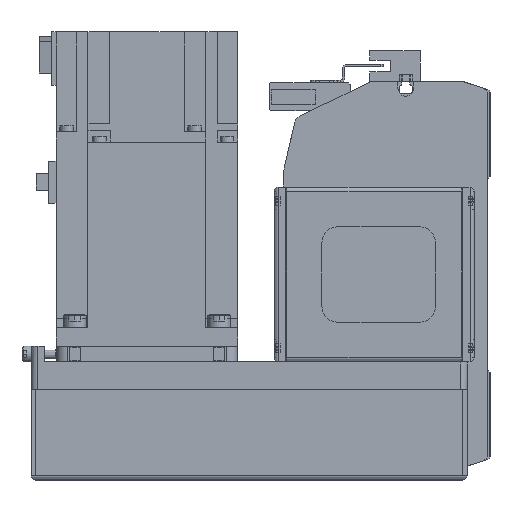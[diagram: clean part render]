
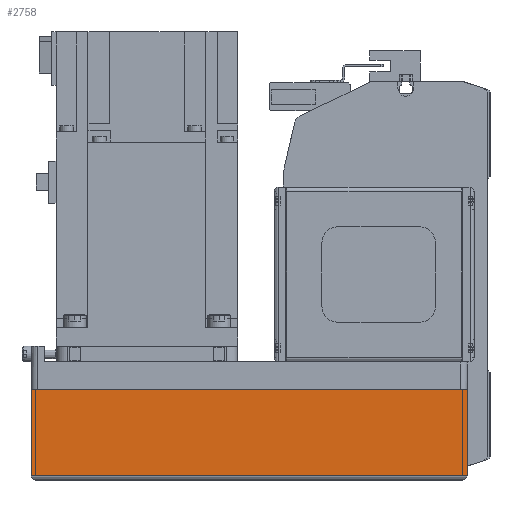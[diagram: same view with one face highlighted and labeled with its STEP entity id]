
A CAD part, left-side view. The second image highlights one B-rep face of the part: STEP entity #2758.
In plain terms, the highlighted planar face has unit normal (-1, 0, 0) as drawn and (0, -1, 0) by its records, which use the part's own axes.
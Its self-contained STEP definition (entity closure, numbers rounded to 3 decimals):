
#2758 = ADVANCED_FACE( '', ( #6001 ), #6002, .T. );
#6001 = FACE_OUTER_BOUND( '', #9681, .T. );
#6002 = PLANE( '', #9682 );
#9681 = EDGE_LOOP( '', ( #17628, #17629, #17630, #17631 ) );
#9682 = AXIS2_PLACEMENT_3D( '', #17632, #17633, #17634 );
#17628 = ORIENTED_EDGE( '', *, *, #23791, .F. );
#17629 = ORIENTED_EDGE( '', *, *, #22377, .F. );
#17630 = ORIENTED_EDGE( '', *, *, #23407, .T. );
#17631 = ORIENTED_EDGE( '', *, *, #23600, .T. );
#17632 = CARTESIAN_POINT( '', ( -192., -40., -12.1 ) );
#17633 = DIRECTION( '', ( 0., -1., 0. ) );
#17634 = DIRECTION( '', ( 0., 0., -1. ) );
#22377 = EDGE_CURVE( '', #27366, #26801, #27367, .T. );
#23407 = EDGE_CURVE( '', #27366, #26725, #28863, .T. );
#23600 = EDGE_CURVE( '', #26725, #25038, #29104, .T. );
#23791 = EDGE_CURVE( '', #26801, #25038, #29330, .T. );
#25038 = VERTEX_POINT( '', #30859 );
#26725 = VERTEX_POINT( '', #33601 );
#26801 = VERTEX_POINT( '', #33748 );
#27366 = VERTEX_POINT( '', #34645 );
#27367 = LINE( '', #34646, #34647 );
#28863 = LINE( '', #37134, #37135 );
#29104 = LINE( '', #37492, #37493 );
#29330 = LINE( '', #37838, #37839 );
#30859 = CARTESIAN_POINT( '', ( 0., -40., -50. ) );
#33601 = CARTESIAN_POINT( '', ( -192., -40., -50. ) );
#33748 = CARTESIAN_POINT( '', ( 0., -40., -12.1 ) );
#34645 = CARTESIAN_POINT( '', ( -192., -40., -12.1 ) );
#34646 = CARTESIAN_POINT( '', ( -192., -40., -12.1 ) );
#34647 = VECTOR( '', #41072, 1000. );
#37134 = CARTESIAN_POINT( '', ( -192., -40., -12.1 ) );
#37135 = VECTOR( '', #42272, 1000. );
#37492 = CARTESIAN_POINT( '', ( -192., -40., -50. ) );
#37493 = VECTOR( '', #42487, 1000. );
#37838 = CARTESIAN_POINT( '', ( 0., -40., -12.1 ) );
#37839 = VECTOR( '', #42651, 1000. );
#41072 = DIRECTION( '', ( 1., 0., 0. ) );
#42272 = DIRECTION( '', ( 0., 0., -1. ) );
#42487 = DIRECTION( '', ( 1., 0., 0. ) );
#42651 = DIRECTION( '', ( 0., 0., -1. ) );
